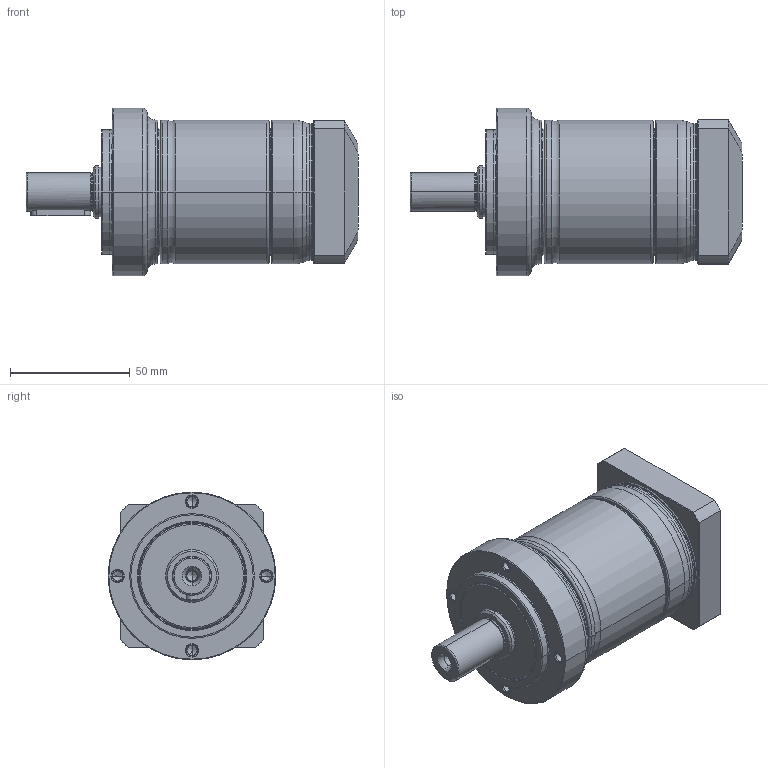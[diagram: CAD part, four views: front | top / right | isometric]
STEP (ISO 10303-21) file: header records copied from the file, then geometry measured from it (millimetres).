
FILE_DESCRIPTION((''),'2;1');
FILE_NAME('PE2-070_2ST_11-P0411200101_ASM','2016-04-27T',('d00435'),(''),'PRO/ENGINEER BY PARAMETRIC TECHNOLOGY CORPORATION, 2008410','PRO/ENGINEER BY PARAMETRIC TECHNOLOGY CORPORATION, 2008410','');
FILE_SCHEMA(('CONFIG_CONTROL_DESIGN'));
Length unit declared in the file: millimetre
Products named in the file (9): P1323210001; P0251200001; P1324200101; P0350201001; P0941201001; P0503200005; P0411200101; P1702300001; PE2-070_2ST_11-P0411200101_ASM
Assembly tree (8 placements, depth 2):
  PE2-070_2ST_11-P0411200101_ASM
    P1323210001
    P0251200001
    P1324200101
    P0350201001
    P0941201001
    P0503200005
    P0411200101
    P1702300001
Bounding box: 138.5 x 70 x 70 mm (x, y, z)
Volume: 242887.4 mm3; surface area: 77344.1 mm2
Topology: 8 solids, 22 shells, 524 faces, 1176 edges, 696 vertices
Faces by surface type: cylinder 166, cone 142, torus 104, plane 96, bspline 16
Entity records: 19394 total; most frequent: CARTESIAN_POINT 7391, DIRECTION 2763, ORIENTED_EDGE 2224, AXIS2_PLACEMENT_3D 1197, EDGE_CURVE 1140, VERTEX_POINT 696, CIRCLE 662, EDGE_LOOP 604
